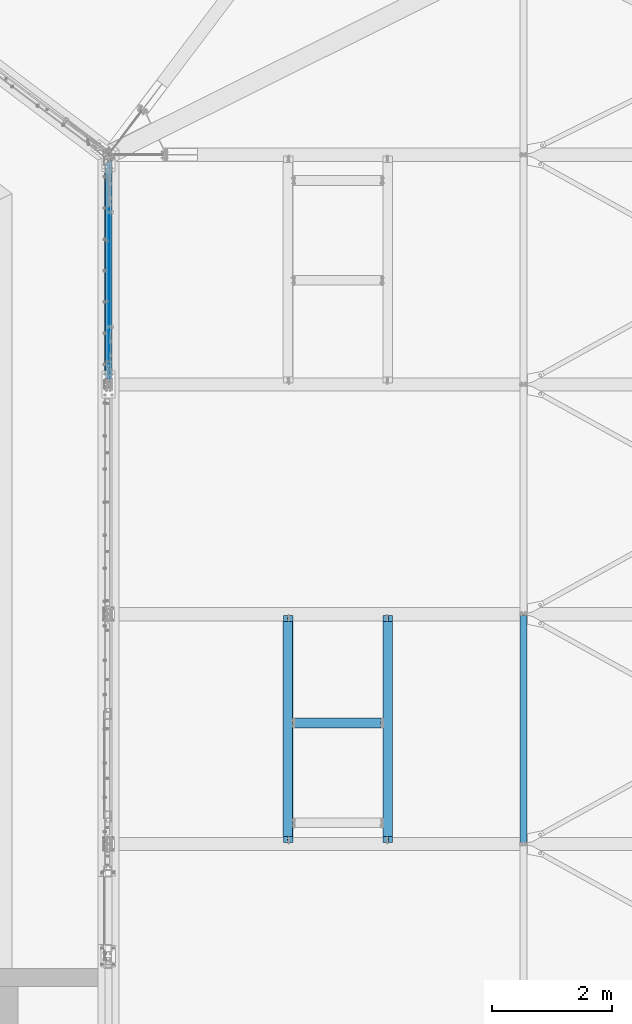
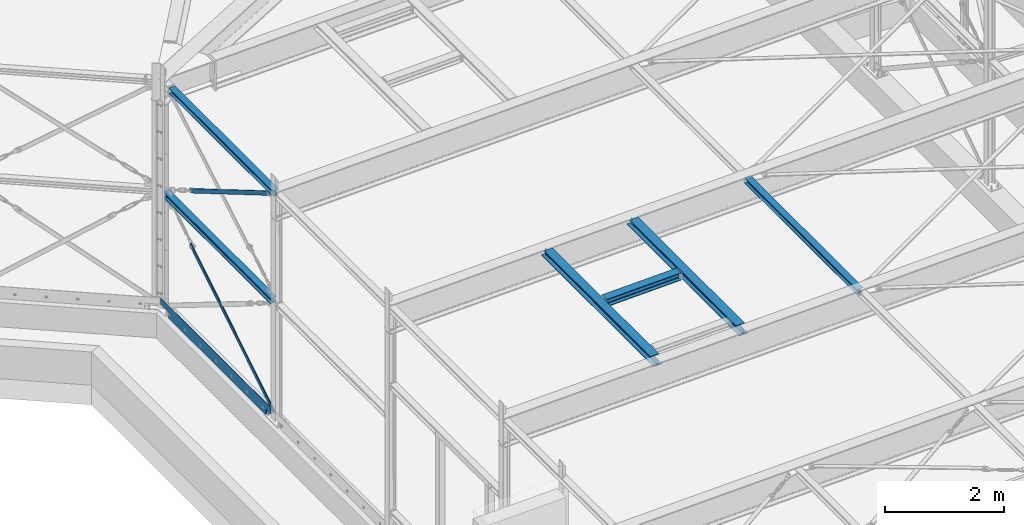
# One storey, part 14 of 476: 6 beams, 3 members, 41 openings.
"""IFC2X3 building model written with IfcOpenShell, lengths in millimetres."""

from ifc_helpers import new_model, entity, si_unit, converted_unit, point, frame, frame_2d, origin, origin_with_axes, origin_2d, origin_2d_with_axis, place, context, project, spatial, polyline, circle_curve, line_curve, trimmed, segment, composite_curve, rectangle, circle, i_section, l_section, outline, extrude, clip, halfspace, material, element, save


model = new_model("IFC2X3")

# Units and contexts
model_context = context("Model", 3, precision=1e-09, world=origin_with_axes())
ifc_project = project(units=[si_unit("LENGTHUNIT", "METRE", prefix="MILLI"), si_unit("AREAUNIT", "SQUARE_METRE"), si_unit("VOLUMEUNIT", "CUBIC_METRE"), converted_unit("PLANEANGLEUNIT", "DEGREE", entity("IfcPlaneAngleMeasure", 0.01745329), si_unit("PLANEANGLEUNIT", "RADIAN"), dimensions=[0, 0, 0, 0, 0, 0, 0])], contexts=[model_context])

# Site, building, storey
site_placement = place(None, origin_with_axes())
site = spatial("IfcSite", under=ifc_project, at=site_placement, Name="mKR Teilneubau & Sanierung BA1 - Ostfildern", CompositionType="ELEMENT")
building_placement = place(site_placement, origin_with_axes())
building = spatial("IfcBuilding", under=site, at=building_placement, Name="Struktur 1", CompositionType="ELEMENT")
storey_placement = place(building_placement, origin_with_axes())
storey = spatial("IfcBuildingStorey", under=building, at=storey_placement, Name="Default Storey", CompositionType="ELEMENT", Elevation=0.0)

# Beam, openings
ifc_material = material(Name="S235JR")
beam_1_placement = place(None, frame((8114.708764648, -5986.78235761, 594.5), z_axis=(0.0, -1.0, 0.0), x_axis=(1.0, 0.0, 0.0)))
beam_1 = element("IfcBeam", 1, at=beam_1_placement, inside=storey, material=ifc_material, Name="-", ObjectType="-", context=model_context, shape_type="SweptSolid", body=[
    extrude(l_section(Depth=250.0, Width=90.0, Thickness=10.0, FilletRadius=15.0, EdgeRadius=7.5, at=frame_2d((30.5, 29.4))), origin(), (0.0, 0.0, 1.0), 3698.891521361),
])
opening_1_placement = place(beam_1_placement, frame((-115.7, 25.501, 261.656440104), z_axis=(-1.0, 0.0, 0.0), x_axis=(0.0, 0.0, -1.0)))
element("IfcOpeningElement", 2, at=opening_1_placement, cuts=beam_1, ObjectType="Opening", context=model_context, shape_type="SweptSolid", body=[
    extrude(outline(polyline([(0.0, 0.0), (311.657440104, 0.0), (311.657440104, 170.002), (0.0, 170.002), (0.0, 0.0)])), origin(), (0.0, 0.0, -1.0), 290.2),
])
opening_2_placement = place(beam_1_placement, frame((-115.7, -144.501, 3533.890521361), z_axis=(-1.0, 0.0, 0.0), x_axis=(0.0, 0.0, 1.0)))
element("IfcOpeningElement", 3, at=opening_2_placement, cuts=beam_1, ObjectType="Opening", context=model_context, shape_type="SweptSolid", body=[
    extrude(outline(polyline([(0.0, 0.0), (176.110478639, 0.0), (176.110478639, 170.002), (0.0, 170.002), (0.0, 0.0)])), origin(), (0.0, 0.0, -1.0), 290.2),
])
opening_3_placement = place(beam_1_placement, frame((34.4, -95.0, 1897.773480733), z_axis=(0.0, 1.0, 0.0), x_axis=(0.0, 0.0, 1.0)))
element("IfcOpeningElement", 4, at=opening_3_placement, cuts=beam_1, ObjectType="Opening", context=model_context, shape_type="SweptSolid", body=[
    extrude(circle(Radius=6.001, at=frame_2d((500.0, 0.0), x_axis=(1.0, 0.0))), origin(), (0.0, 0.0, 1.0), 11.0),
])
opening_4_placement = place(beam_1_placement, frame((34.4, -95.0, 1897.773480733), z_axis=(0.0, 1.0, 0.0), x_axis=(0.0, 0.0, 1.0)))
element("IfcOpeningElement", 5, at=opening_4_placement, cuts=beam_1, ObjectType="Opening", context=model_context, shape_type="SweptSolid", body=[
    extrude(circle(Radius=6.001, at=frame_2d((-500.0, 0.0), x_axis=(1.0, 0.0))), origin(), (0.0, 0.0, 1.0), 11.0),
])
opening_5_placement = place(beam_1_placement, frame((34.4, -95.0, 1897.773480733), z_axis=(0.0, 1.0, 0.0), x_axis=(0.0, 0.0, 1.0)))
element("IfcOpeningElement", 6, at=opening_5_placement, cuts=beam_1, ObjectType="Opening", context=model_context, shape_type="SweptSolid", body=[
    extrude(circle(Radius=6.001, at=frame_2d((1500.0, 0.0), x_axis=(1.0, 0.0))), origin(), (0.0, 0.0, 1.0), 11.0),
])
opening_6_placement = place(beam_1_placement, frame((34.4, -95.0, 1897.773480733), z_axis=(0.0, 1.0, 0.0), x_axis=(0.0, 0.0, 1.0)))
element("IfcOpeningElement", 7, at=opening_6_placement, cuts=beam_1, ObjectType="Opening", context=model_context, shape_type="SweptSolid", body=[
    extrude(circle(Radius=6.001, at=frame_2d((-1500.0, 0.0), x_axis=(1.0, 0.0))), origin(), (0.0, 0.0, 1.0), 11.0),
])
opening_7_placement = place(beam_1_placement, frame((-5.1, 13.5, 1889.44576068), z_axis=(-1.0, 0.0, 0.0), x_axis=(0.0, 0.0, 1.0)))
element("IfcOpeningElement", 8, at=opening_7_placement, cuts=beam_1, ObjectType="Opening", context=model_context, shape_type="SweptSolid", body=[
    extrude(circle(Radius=7.001, at=origin_2d_with_axis()), origin(), (0.0, 0.0, 1.0), 11.0),
])
opening_8_placement = place(beam_1_placement, frame((-5.1, 13.5, 1889.44576068), z_axis=(-1.0, 0.0, 0.0), x_axis=(0.0, 0.0, 1.0)))
element("IfcOpeningElement", 9, at=opening_8_placement, cuts=beam_1, ObjectType="Opening", context=model_context, shape_type="SweptSolid", body=[
    extrude(circle(Radius=7.001, at=frame_2d((520.0, 0.0), x_axis=(1.0, 0.0))), origin(), (0.0, 0.0, 1.0), 11.0),
])
opening_9_placement = place(beam_1_placement, frame((-5.1, 13.5, 1889.44576068), z_axis=(-1.0, 0.0, 0.0), x_axis=(0.0, 0.0, 1.0)))
element("IfcOpeningElement", 10, at=opening_9_placement, cuts=beam_1, ObjectType="Opening", context=model_context, shape_type="SweptSolid", body=[
    extrude(circle(Radius=7.001, at=frame_2d((-520.0, 0.0), x_axis=(1.0, 0.0))), origin(), (0.0, 0.0, 1.0), 11.0),
])
opening_10_placement = place(beam_1_placement, frame((-5.1, 13.5, 1889.44576068), z_axis=(-1.0, 0.0, 0.0), x_axis=(0.0, 0.0, 1.0)))
element("IfcOpeningElement", 11, at=opening_10_placement, cuts=beam_1, ObjectType="Opening", context=model_context, shape_type="SweptSolid", body=[
    extrude(circle(Radius=7.001, at=frame_2d((1040.0, 0.0), x_axis=(1.0, 0.0))), origin(), (0.0, 0.0, 1.0), 11.0),
])
opening_11_placement = place(beam_1_placement, frame((-5.1, 13.5, 1889.44576068), z_axis=(-1.0, 0.0, 0.0), x_axis=(0.0, 0.0, 1.0)))
element("IfcOpeningElement", 12, at=opening_11_placement, cuts=beam_1, ObjectType="Opening", context=model_context, shape_type="SweptSolid", body=[
    extrude(circle(Radius=7.001, at=frame_2d((-1040.0, 0.0), x_axis=(1.0, 0.0))), origin(), (0.0, 0.0, 1.0), 11.0),
])
opening_12_placement = place(beam_1_placement, frame((-5.1, 13.5, 1889.44576068), z_axis=(-1.0, 0.0, 0.0), x_axis=(0.0, 0.0, 1.0)))
element("IfcOpeningElement", 13, at=opening_12_placement, cuts=beam_1, ObjectType="Opening", context=model_context, shape_type="SweptSolid", body=[
    extrude(circle(Radius=7.001, at=frame_2d((1560.0, 0.0), x_axis=(1.0, 0.0))), origin(), (0.0, 0.0, 1.0), 11.0),
])
opening_13_placement = place(beam_1_placement, frame((-5.1, 13.5, 1889.44576068), z_axis=(-1.0, 0.0, 0.0), x_axis=(0.0, 0.0, 1.0)))
element("IfcOpeningElement", 14, at=opening_13_placement, cuts=beam_1, ObjectType="Opening", context=model_context, shape_type="SweptSolid", body=[
    extrude(circle(Radius=7.001, at=frame_2d((-1560.0, 0.0), x_axis=(1.0, 0.0))), origin(), (0.0, 0.0, 1.0), 11.0),
])

beam_2_placement = place(None, frame((12809.188782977, -13475.328965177, 5337.738825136), z_axis=(0.0, 1.0, 0.0), x_axis=(-0.999549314, 0.0, -0.030019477)))
beam_2 = element("IfcBeam", 15, at=beam_2_placement, inside=storey, material=ifc_material, Name="-", ObjectType="-", context=model_context, shape_type="Clipping", body=[
    clip(clip(extrude(i_section(OverallWidth=160.0, OverallDepth=152.0, WebThickness=6.0, FlangeThickness=9.0, FilletRadius=15.0, at=origin_2d()), origin(), (0.0, 0.0, -1.0), 4040.689827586), halfspace(frame((12963.65198964, -4950.808028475, -131.345913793), z_axis=(0.0, 0.0, -1.0), x_axis=(-0.999549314, -0.030019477, 0.0)), True)), halfspace(frame((12963.65198964, -4950.808028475, -3909.343913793), z_axis=(0.0, 0.0, 1.0), x_axis=(0.999549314, 0.030019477, 0.0)), True)),
])
opening_14_placement = place(beam_2_placement, frame((1500.0, 0.0, -110.344913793), z_axis=(-1.0, 0.0, 0.0), x_axis=(0.0, 0.0, 1.0)))
element("IfcOpeningElement", 16, at=opening_14_placement, cuts=beam_2, ObjectType="Opening", context=model_context, shape_type="SweptSolid", body=[
    extrude(outline(composite_curve([segment(trimmed(line_curve((-20.2, 42.038924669), (0.0, 1.0), 34.761075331), [point((-20.2, 42.038924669))], [point((-20.2, 76.8))], True, "CARTESIAN"), True, "CONTINUOUS"), segment(trimmed(line_curve((-20.2, 76.8), (-1.0, 0.0), 104.8), [point((-20.2, 76.8))], [point((-125.0, 76.8))], True, "CARTESIAN"), True, "CONTINUOUS"), segment(trimmed(line_curve((-125.0, 76.8), (0.0, -1.0), 24.761075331), [point((-125.0, 76.8))], [point((-125.0, 52.038924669))], True, "CARTESIAN"), True, "CONTINUOUS"), segment(trimmed(circle_curve(frame_2d((-115.0, 52.038924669), x_axis=(1.0, 0.0)), 10.0), [point((-125.0, 52.038924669))], [point((-115.0, 42.038924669))], True, "CARTESIAN"), True, "CONTINUOUS"), segment(trimmed(line_curve((-115.0, 42.038924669), (1.0, 0.0), 94.8), [point((-115.0, 42.038924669))], [point((-20.2, 42.038924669))], True, "CARTESIAN"), True, "CONTINUOUS")], self_intersect=False)), origin(), (0.0, 0.0, 1.0), 3000.0),
])
opening_15_placement = place(beam_2_placement, frame((-1500.0, 0.0, -3930.344913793), z_axis=(1.0, 0.0, 0.0), x_axis=(0.0, 0.0, -1.0)))
element("IfcOpeningElement", 17, at=opening_15_placement, cuts=beam_2, ObjectType="Opening", context=model_context, shape_type="SweptSolid", body=[
    extrude(outline(composite_curve([segment(trimmed(line_curve((-20.2, 42.038924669), (0.0, 1.0), 34.761075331), [point((-20.2, 42.038924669))], [point((-20.2, 76.8))], True, "CARTESIAN"), True, "CONTINUOUS"), segment(trimmed(line_curve((-20.2, 76.8), (-1.0, 0.0), 104.8), [point((-20.2, 76.8))], [point((-125.0, 76.8))], True, "CARTESIAN"), True, "CONTINUOUS"), segment(trimmed(line_curve((-125.0, 76.8), (0.0, -1.0), 24.761075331), [point((-125.0, 76.8))], [point((-125.0, 52.038924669))], True, "CARTESIAN"), True, "CONTINUOUS"), segment(trimmed(circle_curve(frame_2d((-115.0, 52.038924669), x_axis=(1.0, 0.0)), 10.0), [point((-125.0, 52.038924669))], [point((-115.0, 42.038924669))], True, "CARTESIAN"), True, "CONTINUOUS"), segment(trimmed(line_curve((-115.0, 42.038924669), (1.0, 0.0), 94.8), [point((-115.0, 42.038924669))], [point((-20.2, 42.038924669))], True, "CARTESIAN"), True, "CONTINUOUS")], self_intersect=False)), origin(), (0.0, 0.0, 1.0), 3000.0),
])
opening_16_placement = place(beam_2_placement, frame((3.5, 17.038924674, -156.344913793), z_axis=(-1.0, 0.0, 0.0), x_axis=(0.0, 0.0, -1.0)))
element("IfcOpeningElement", 18, at=opening_16_placement, cuts=beam_2, ObjectType="Opening", context=model_context, shape_type="SweptSolid", body=[
    extrude(circle(Radius=7.001, at=frame_2d((50.0, 40.0), x_axis=(1.0, 0.0))), origin(), (0.0, 0.0, 1.0), 7.0),
])
opening_17_placement = place(beam_2_placement, frame((3.5, 17.038924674, -156.344913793), z_axis=(-1.0, 0.0, 0.0), x_axis=(0.0, 0.0, -1.0)))
element("IfcOpeningElement", 19, at=opening_17_placement, cuts=beam_2, ObjectType="Opening", context=model_context, shape_type="SweptSolid", body=[
    extrude(circle(Radius=7.001, at=frame_2d((0.0, 40.0), x_axis=(1.0, 0.0))), origin(), (0.0, 0.0, 1.0), 7.0),
])
opening_18_placement = place(beam_2_placement, frame((3.5, 17.038924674, -156.344913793), z_axis=(-1.0, 0.0, 0.0), x_axis=(0.0, 0.0, -1.0)))
element("IfcOpeningElement", 20, at=opening_18_placement, cuts=beam_2, ObjectType="Opening", context=model_context, shape_type="SweptSolid", body=[
    extrude(circle(Radius=7.001, at=frame_2d((50.0, 0.0), x_axis=(1.0, 0.0))), origin(), (0.0, 0.0, 1.0), 7.0),
])
opening_19_placement = place(beam_2_placement, frame((3.5, 17.038924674, -156.344913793), z_axis=(-1.0, 0.0, 0.0), x_axis=(0.0, 0.0, -1.0)))
element("IfcOpeningElement", 21, at=opening_19_placement, cuts=beam_2, ObjectType="Opening", context=model_context, shape_type="SweptSolid", body=[
    extrude(circle(Radius=7.001, at=origin_2d_with_axis()), origin(), (0.0, 0.0, 1.0), 7.0),
])
opening_20_placement = place(beam_2_placement, frame((3.5, -22.961075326, -3841.345913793), z_axis=(1.0, 0.0, 0.0), x_axis=(0.0, 1.0, 0.0)))
element("IfcOpeningElement", 22, at=opening_20_placement, cuts=beam_2, ObjectType="Opening", context=model_context, shape_type="SweptSolid", body=[
    extrude(circle(Radius=7.001, at=frame_2d((0.0, 7.001), x_axis=(1.0, 0.0))), origin(), (0.0, 0.0, -1.0), 7.0),
])
opening_21_placement = place(beam_2_placement, frame((3.5, -22.961075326, -3891.345913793), z_axis=(1.0, 0.0, 0.0), x_axis=(0.0, 1.0, 0.0)))
element("IfcOpeningElement", 23, at=opening_21_placement, cuts=beam_2, ObjectType="Opening", context=model_context, shape_type="SweptSolid", body=[
    extrude(circle(Radius=7.001, at=frame_2d((0.0, 7.001), x_axis=(1.0, 0.0))), origin(), (0.0, 0.0, -1.0), 7.0),
])
opening_22_placement = place(beam_2_placement, frame((3.5, 17.038924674, -3841.345913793), z_axis=(1.0, 0.0, 0.0), x_axis=(0.0, 1.0, 0.0)))
element("IfcOpeningElement", 24, at=opening_22_placement, cuts=beam_2, ObjectType="Opening", context=model_context, shape_type="SweptSolid", body=[
    extrude(circle(Radius=7.001, at=frame_2d((0.0, 7.001), x_axis=(1.0, 0.0))), origin(), (0.0, 0.0, -1.0), 7.0),
])
opening_23_placement = place(beam_2_placement, frame((3.5, 17.038924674, -3891.345913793), z_axis=(1.0, 0.0, 0.0), x_axis=(0.0, 1.0, 0.0)))
element("IfcOpeningElement", 25, at=opening_23_placement, cuts=beam_2, ObjectType="Opening", context=model_context, shape_type="SweptSolid", body=[
    extrude(circle(Radius=7.001, at=frame_2d((0.0, 7.001), x_axis=(1.0, 0.0))), origin(), (0.0, 0.0, -1.0), 7.0),
])

beam_3_placement = place(None, frame((11149.93692185, -13475.328965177, 5287.906492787), z_axis=(0.0, -1.0, 0.0), x_axis=(0.999549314, 0.0, 0.030019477)))
beam_3 = element("IfcBeam", 26, at=beam_3_placement, inside=storey, material=ifc_material, Name="-", ObjectType="-", context=model_context, shape_type="Clipping", body=[
    clip(clip(extrude(i_section(OverallWidth=160.0, OverallDepth=152.0, WebThickness=6.0, FlangeThickness=9.0, FilletRadius=15.0, at=origin_2d()), origin(), (0.0, 0.0, 1.0), 4040.689827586), halfspace(frame((-11303.65198964, -4950.808028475, 131.345913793), z_axis=(0.0, 0.0, 1.0), x_axis=(0.999549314, -0.030019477, 0.0)), True)), halfspace(frame((-11303.65198964, -4950.808028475, 3909.343913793), z_axis=(0.0, 0.0, -1.0), x_axis=(-0.999549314, 0.030019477, 0.0)), True)),
])
opening_24_placement = place(beam_3_placement, frame((1500.0, 42.001617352, 130.544913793), z_axis=(1.0, 0.0, 0.0), x_axis=(0.0, 1.0, 0.0)))
element("IfcOpeningElement", 27, at=opening_24_placement, cuts=beam_3, ObjectType="Opening", context=model_context, shape_type="SweptSolid", body=[
    extrude(outline(composite_curve([segment(trimmed(line_curve((0.0, 0.0), (1.0, 0.0), 34.798382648), [point((0.0, 0.0))], [point((34.798382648, 0.0))], True, "CARTESIAN"), True, "CONTINUOUS"), segment(trimmed(line_curve((34.798382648, 0.0), (0.0, 1.0), 104.8), [point((34.798382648, 0.0))], [point((34.798382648, 104.8))], True, "CARTESIAN"), True, "CONTINUOUS"), segment(trimmed(line_curve((34.798382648, 104.8), (-1.0, 0.0), 24.798382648), [point((34.798382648, 104.8))], [point((10.0, 104.8))], True, "CARTESIAN"), True, "CONTINUOUS"), segment(trimmed(circle_curve(frame_2d((10.0, 94.8), x_axis=(1.0, 0.0)), 10.0), [point((10.0, 104.8))], [point((0.0, 94.8))], True, "CARTESIAN"), True, "CONTINUOUS"), segment(trimmed(line_curve((0.0, 94.8), (0.0, -1.0), 94.8), [point((0.0, 94.8))], [point((0.0, 0.0))], True, "CARTESIAN"), True, "CONTINUOUS")], self_intersect=False)), origin(), (0.0, 0.0, -1.0), 3000.0),
])
opening_25_placement = place(beam_3_placement, frame((-1500.0, 42.001617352, 3910.144913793), z_axis=(-1.0, 0.0, 0.0), x_axis=(0.0, 1.0, 0.0)))
element("IfcOpeningElement", 28, at=opening_25_placement, cuts=beam_3, ObjectType="Opening", context=model_context, shape_type="SweptSolid", body=[
    extrude(outline(composite_curve([segment(trimmed(line_curve((0.0, 0.0), (1.0, 0.0), 34.798382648), [point((0.0, 0.0))], [point((34.798382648, 0.0))], True, "CARTESIAN"), True, "CONTINUOUS"), segment(trimmed(line_curve((34.798382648, 0.0), (0.0, 1.0), 104.8), [point((34.798382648, 0.0))], [point((34.798382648, 104.8))], True, "CARTESIAN"), True, "CONTINUOUS"), segment(trimmed(line_curve((34.798382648, 104.8), (-1.0, 0.0), 24.798382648), [point((34.798382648, 104.8))], [point((10.0, 104.8))], True, "CARTESIAN"), True, "CONTINUOUS"), segment(trimmed(circle_curve(frame_2d((10.0, 94.8), x_axis=(1.0, 0.0)), 10.0), [point((10.0, 104.8))], [point((0.0, 94.8))], True, "CARTESIAN"), True, "CONTINUOUS"), segment(trimmed(line_curve((0.0, 94.8), (0.0, -1.0), 94.8), [point((0.0, 94.8))], [point((0.0, 0.0))], True, "CARTESIAN"), True, "CONTINUOUS")], self_intersect=False)), origin(), (0.0, 0.0, -1.0), 3000.0),
])
opening_26_placement = place(beam_3_placement, frame((-3.5, 17.001617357, 156.344913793), z_axis=(1.0, 0.0, 0.0), x_axis=(0.0, 0.0, 1.0)))
element("IfcOpeningElement", 29, at=opening_26_placement, cuts=beam_3, ObjectType="Opening", context=model_context, shape_type="SweptSolid", body=[
    extrude(circle(Radius=7.001, at=frame_2d((50.0, 40.0), x_axis=(1.0, 0.0))), origin(), (0.0, 0.0, 1.0), 7.0),
])
opening_27_placement = place(beam_3_placement, frame((-3.5, 17.001617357, 156.344913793), z_axis=(1.0, 0.0, 0.0), x_axis=(0.0, 0.0, 1.0)))
element("IfcOpeningElement", 30, at=opening_27_placement, cuts=beam_3, ObjectType="Opening", context=model_context, shape_type="SweptSolid", body=[
    extrude(circle(Radius=7.001, at=frame_2d((0.0, 40.0), x_axis=(1.0, 0.0))), origin(), (0.0, 0.0, 1.0), 7.0),
])
opening_28_placement = place(beam_3_placement, frame((-3.5, 17.001617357, 156.344913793), z_axis=(1.0, 0.0, 0.0), x_axis=(0.0, 0.0, 1.0)))
element("IfcOpeningElement", 31, at=opening_28_placement, cuts=beam_3, ObjectType="Opening", context=model_context, shape_type="SweptSolid", body=[
    extrude(circle(Radius=7.001, at=frame_2d((50.0, 0.0), x_axis=(1.0, 0.0))), origin(), (0.0, 0.0, 1.0), 7.0),
])
opening_29_placement = place(beam_3_placement, frame((-3.5, 17.001617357, 156.344913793), z_axis=(1.0, 0.0, 0.0), x_axis=(0.0, 0.0, 1.0)))
element("IfcOpeningElement", 32, at=opening_29_placement, cuts=beam_3, ObjectType="Opening", context=model_context, shape_type="SweptSolid", body=[
    extrude(circle(Radius=7.001, at=origin_2d_with_axis()), origin(), (0.0, 0.0, 1.0), 7.0),
])
opening_30_placement = place(beam_3_placement, frame((-3.5, -22.998382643, 3841.345913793), z_axis=(-1.0, 0.0, 0.0), x_axis=(0.0, -1.0, 0.0)))
element("IfcOpeningElement", 33, at=opening_30_placement, cuts=beam_3, ObjectType="Opening", context=model_context, shape_type="SweptSolid", body=[
    extrude(circle(Radius=7.001, at=frame_2d((0.0, -7.001), x_axis=(1.0, 0.0))), origin(), (0.0, 0.0, -1.0), 7.0),
])
opening_31_placement = place(beam_3_placement, frame((-3.5, -22.998382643, 3891.345913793), z_axis=(-1.0, 0.0, 0.0), x_axis=(0.0, -1.0, 0.0)))
element("IfcOpeningElement", 34, at=opening_31_placement, cuts=beam_3, ObjectType="Opening", context=model_context, shape_type="SweptSolid", body=[
    extrude(circle(Radius=7.001, at=frame_2d((0.0, -7.001), x_axis=(1.0, 0.0))), origin(), (0.0, 0.0, -1.0), 7.0),
])
opening_32_placement = place(beam_3_placement, frame((-3.5, 17.001617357, 3841.345913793), z_axis=(-1.0, 0.0, 0.0), x_axis=(0.0, -1.0, 0.0)))
element("IfcOpeningElement", 35, at=opening_32_placement, cuts=beam_3, ObjectType="Opening", context=model_context, shape_type="SweptSolid", body=[
    extrude(circle(Radius=7.001, at=frame_2d((0.0, -7.001), x_axis=(1.0, 0.0))), origin(), (0.0, 0.0, -1.0), 7.0),
])
opening_33_placement = place(beam_3_placement, frame((-3.5, 17.001617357, 3891.345913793), z_axis=(-1.0, 0.0, 0.0), x_axis=(0.0, -1.0, 0.0)))
element("IfcOpeningElement", 36, at=opening_33_placement, cuts=beam_3, ObjectType="Opening", context=model_context, shape_type="SweptSolid", body=[
    extrude(circle(Radius=7.001, at=frame_2d((0.0, -7.001), x_axis=(1.0, 0.0))), origin(), (0.0, 0.0, -1.0), 7.0),
])

# Member
member_1_placement = place(None, frame((12919.483965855, -15395.673034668, 5341.051321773), z_axis=(0.999549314, 0.0, 0.030019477), x_axis=(0.0, 1.0, 0.0)))
element("IfcMember", 37, at=member_1_placement, inside=storey, material=ifc_material, Name="-", ObjectType="-", context=model_context, shape_type="Clipping", body=[
    clip(clip(extrude(i_section(OverallWidth=160.0, OverallDepth=152.0, WebThickness=6.0, FlangeThickness=9.0, FilletRadius=15.0, at=origin_2d()), origin(), (0.0, 0.0, -1.0), 1880.689827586), halfspace(frame((15395.673034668, -4950.808028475, -1660.343913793), z_axis=(0.0, 0.0, 1.0), x_axis=(1.0, 0.0, 0.0)), True)), halfspace(frame((15395.673034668, -4950.808028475, -220.345913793), z_axis=(0.0, 0.0, -1.0), x_axis=(-1.0, 0.0, 0.0)), True)),
])

# Member, openings
member_2_placement = place(None, frame((8180.608780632, -6856.064907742, 3445.740790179), z_axis=(0.0, 0.861941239, -0.507008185), x_axis=(1.0, 0.0, 0.0)))
member_2 = element("IfcMember", 38, at=member_2_placement, inside=storey, material=ifc_material, Name="-", ObjectType="-", context=model_context, shape_type="SweptSolid", body=[
    extrude(rectangle(XDim=15.0, YDim=80.0, at=origin_2d()), origin(), (0.0, 0.0, -1.0), 3147.918613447),
])
opening_34_placement = place(member_2_placement, frame((8.0, 0.0, -3087.918692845), z_axis=(-1.0, 0.0, 0.0), x_axis=(0.0, 0.507008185, -0.861941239)))
element("IfcOpeningElement", 39, at=opening_34_placement, cuts=member_2, ObjectType="Opening", context=model_context, shape_type="SweptSolid", body=[
    extrude(circle(Radius=16.001, at=origin_2d_with_axis()), origin(), (0.0, 0.0, 1.0), 16.0),
])
opening_35_placement = place(member_2_placement, frame((8.0, 0.0, -60.00002587), z_axis=(-1.0, 0.0, 0.0), x_axis=(0.0, 0.0, -1.0)))
element("IfcOpeningElement", 40, at=opening_35_placement, cuts=member_2, ObjectType="Opening", context=model_context, shape_type="SweptSolid", body=[
    extrude(circle(Radius=16.001, at=origin_2d_with_axis()), origin(), (0.0, 0.0, 1.0), 16.0),
])

member_3_placement = place(None, frame((8180.610171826, -9663.737022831, 608.212502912), z_axis=(3.18e-07, -0.849856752, -0.527013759), x_axis=(1.0, 2.7e-07, 1.68e-07)))
member_3 = element("IfcMember", 41, at=member_3_placement, inside=storey, material=ifc_material, Name="-", ObjectType="-", context=model_context, shape_type="SweptSolid", body=[
    extrude(rectangle(XDim=15.0, YDim=80.0, at=origin_2d()), origin(), (0.0, 0.0, -1.0), 3314.667600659),
])
opening_36_placement = place(member_3_placement, frame((8.000009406, -8.432303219, -73.598576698), z_axis=(1.0, 0.0, 3.18e-07), x_axis=(0.0, 1.0, 0.0)))
element("IfcOpeningElement", 42, at=opening_36_placement, cuts=member_3, ObjectType="Opening", context=model_context, shape_type="SweptSolid", body=[
    extrude(circle(Radius=16.001, at=frame_2d((8.43274715, 13.598557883), x_axis=(1.0, 0.0))), origin(), (0.0, 0.0, -1.0), 16.000009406),
])
opening_37_placement = place(member_3_placement, frame((8.0, 0.0, -3254.667635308), z_axis=(-1.0, 0.0, 0.0), x_axis=(0.0, 0.0, 1.0)))
element("IfcOpeningElement", 43, at=opening_37_placement, cuts=member_3, ObjectType="Opening", context=model_context, shape_type="SweptSolid", body=[
    extrude(circle(Radius=16.001, at=origin_2d_with_axis()), origin(), (0.0, 0.0, 1.0), 16.0),
])

# Beams
beam_4_placement = place(None, frame((8165.608780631, -5856.224224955, 2912.000017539), z_axis=(0.0, 1.0, 0.0), x_axis=(-1.0, 0.0, 0.0)))
element("IfcBeam", 44, at=beam_4_placement, inside=storey, material=ifc_material, Name="-", ObjectType="-", context=model_context, shape_type="Clipping", body=[
    clip(clip(extrude(i_section(OverallWidth=120.0, OverallDepth=114.0, WebThickness=5.0, FlangeThickness=8.0, FilletRadius=12.0, at=origin_2d()), origin(), (0.0, 0.0, -1.0), 3992.20833936), halfspace(frame((8165.608780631, -2912.000017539, -3809.448654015), z_axis=(0.0, 0.0, 1.0), x_axis=(1.0, 0.0, 0.0)), True)), halfspace(frame((4125.096120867, -2912.000017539, -2258.217768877), z_axis=(-0.445738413, 0.0, -0.895163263), x_axis=(-0.895163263, 0.0, 0.445738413)), True)),
])
beam_5_placement = place(None, frame((15065.608780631, -13502.915193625, 5364.602213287), z_axis=(0.0, 1.0, 0.0), x_axis=(-0.999549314, 0.0, -0.030019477)))
element("IfcBeam", 45, at=beam_5_placement, inside=storey, material=ifc_material, Name="-", ObjectType="-", context=model_context, shape_type="Clipping", body=[
    clip(clip(extrude(i_section(OverallWidth=120.0, OverallDepth=114.0, WebThickness=5.0, FlangeThickness=8.0, FilletRadius=12.0, at=origin_2d()), origin(), (0.0, 0.0, -1.0), 3985.51737069), halfspace(frame((15219.861475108, -4909.922760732, -100.759685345), z_axis=(0.0, 0.0, -1.0), x_axis=(-0.999549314, -0.030019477, 0.0)), True)), halfspace(frame((15219.861475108, -4909.922760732, -3884.757685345), z_axis=(0.0, 0.0, 1.0), x_axis=(0.999549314, 0.030019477, 0.0)), True)),
])

# Beam, openings
beam_6_placement = place(None, frame((8165.608780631, -6155.915193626, 5157.22121182), z_axis=(0.0, 1.0, 0.0), x_axis=(-0.999548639, 0.0, -0.030041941)))
beam_6 = element("IfcBeam", 46, at=beam_6_placement, inside=storey, material=ifc_material, Name="-", ObjectType="-", context=model_context, shape_type="Clipping", body=[
    clip(clip(extrude(i_section(OverallWidth=120.0, OverallDepth=114.0, WebThickness=5.0, FlangeThickness=8.0, FilletRadius=12.0, at=origin_2d()), origin(), (0.0, 0.0, -1.0), 3692.517370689), halfspace(frame((8316.856080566, -4909.582703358, -3591.757685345), z_axis=(0.0, 0.0, 1.0), x_axis=(0.999548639, 0.030041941, 0.0)), True)), halfspace(frame((8316.856080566, -4909.582703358, -102.759685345), z_axis=(0.0, 0.0, -1.0), x_axis=(-0.999548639, -0.030041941, 0.0)), True)),
])
opening_38_placement = place(beam_6_placement, frame((45.0, -1.332627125, -3529.758685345), z_axis=(0.0, 1.0, 0.0), x_axis=(0.0, 0.0, -1.0)))
element("IfcOpeningElement", 47, at=opening_38_placement, cuts=beam_6, ObjectType="Opening", context=model_context, shape_type="SweptSolid", body=[
    extrude(outline(polyline([(0.0, 0.0), (0.0, -30.0), (62.0, -30.0), (62.0, 0.0), (0.0, 0.0)])), origin(), (0.0, 0.0, 1.0), 59.665254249),
])
opening_39_placement = place(beam_6_placement, frame((45.0, -58.353598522, -3529.758685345), z_axis=(0.0, 1.0, 0.0), x_axis=(0.0, 0.0, -1.0)))
element("IfcOpeningElement", 48, at=opening_39_placement, cuts=beam_6, ObjectType="Opening", context=model_context, shape_type="SweptSolid", body=[
    extrude(outline(polyline([(0.0, 0.0), (0.0, -30.0), (62.0, -30.0), (62.0, 0.0), (0.0, 0.0)])), origin(), (0.0, 0.0, 1.0), 59.707197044),
])
opening_40_placement = place(beam_6_placement, frame((-3.0, 30.0, -112.758685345), z_axis=(1.0, 0.0, 0.0), x_axis=(0.0, 0.0, -1.0)))
element("IfcOpeningElement", 49, at=opening_40_placement, cuts=beam_6, ObjectType="Opening", context=model_context, shape_type="SweptSolid", body=[
    extrude(circle(Radius=6.001, at=origin_2d_with_axis()), origin(), (0.0, 0.0, 1.0), 6.0),
])
opening_41_placement = place(beam_6_placement, frame((-3.0, -30.0, -112.758685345), z_axis=(1.0, 0.0, 0.0), x_axis=(0.0, 0.0, -1.0)))
element("IfcOpeningElement", 50, at=opening_41_placement, cuts=beam_6, ObjectType="Opening", context=model_context, shape_type="SweptSolid", body=[
    extrude(circle(Radius=6.001, at=origin_2d_with_axis()), origin(), (0.0, 0.0, 1.0), 6.0),
])

save(model, "model.ifc")
